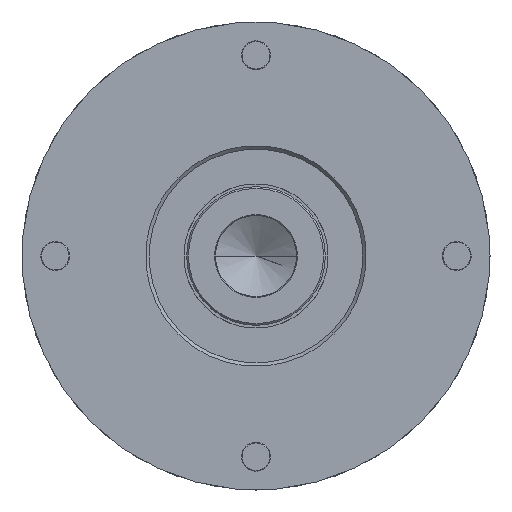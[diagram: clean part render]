
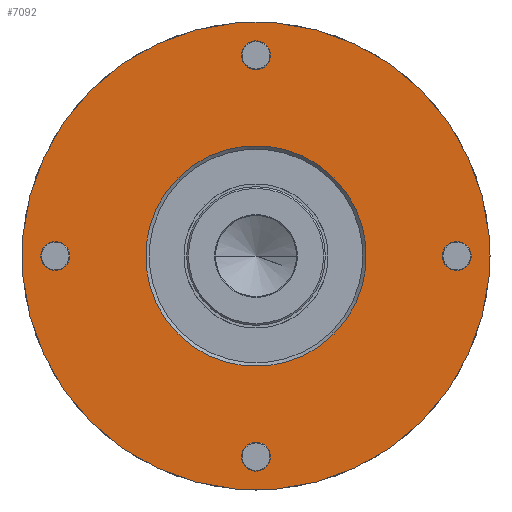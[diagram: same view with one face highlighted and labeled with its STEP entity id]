
A CAD part, left-side view. The second image highlights one B-rep face of the part: STEP entity #7092.
In plain terms, the highlighted planar face has unit normal (-1, 0, 0).
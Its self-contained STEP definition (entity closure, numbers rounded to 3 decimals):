
#6401=CARTESIAN_POINT('',(0.,0.,0.));
#6402=DIRECTION('',(-1.,0.,0.));
#6403=DIRECTION('',(0.,1.,0.));
#6404=AXIS2_PLACEMENT_3D('',#6401,#6402,#6403);
#6409=CARTESIAN_POINT('',(0.,0.,0.));
#6410=DIRECTION('',(1.,0.,0.));
#6411=DIRECTION('',(0.,1.,0.));
#6412=AXIS2_PLACEMENT_3D('',#6409,#6410,#6411);
#6417=CARTESIAN_POINT('',(0.,0.,0.));
#6418=DIRECTION('',(-1.,0.,0.));
#6419=DIRECTION('',(0.,-1.,0.));
#6420=AXIS2_PLACEMENT_3D('',#6417,#6418,#6419);
#6425=CARTESIAN_POINT('',(0.,0.,0.));
#6426=DIRECTION('',(-1.,0.,0.));
#6427=DIRECTION('',(0.,1.,0.));
#6428=AXIS2_PLACEMENT_3D('',#6425,#6426,#6427);
#6433=CARTESIAN_POINT('',(0.,24.572,-24.572));
#6434=DIRECTION('',(1.,0.,0.));
#6435=DIRECTION('',(0.,-1.,0.));
#6436=AXIS2_PLACEMENT_3D('',#6433,#6434,#6435);
#6441=CARTESIAN_POINT('',(0.,24.572,-24.572));
#6442=DIRECTION('',(1.,0.,0.));
#6443=DIRECTION('',(0.,1.,0.));
#6444=AXIS2_PLACEMENT_3D('',#6441,#6442,#6443);
#6449=CARTESIAN_POINT('',(0.,-24.572,-24.572));
#6450=DIRECTION('',(1.,0.,0.));
#6451=DIRECTION('',(0.,-1.,0.));
#6452=AXIS2_PLACEMENT_3D('',#6449,#6450,#6451);
#6457=CARTESIAN_POINT('',(0.,-24.572,-24.572));
#6458=DIRECTION('',(1.,0.,0.));
#6459=DIRECTION('',(0.,1.,0.));
#6460=AXIS2_PLACEMENT_3D('',#6457,#6458,#6459);
#6465=CARTESIAN_POINT('',(0.,-24.572,24.572));
#6466=DIRECTION('',(1.,0.,0.));
#6467=DIRECTION('',(0.,-1.,0.));
#6468=AXIS2_PLACEMENT_3D('',#6465,#6466,#6467);
#6473=CARTESIAN_POINT('',(0.,-24.572,24.572));
#6474=DIRECTION('',(1.,0.,0.));
#6475=DIRECTION('',(0.,1.,0.));
#6476=AXIS2_PLACEMENT_3D('',#6473,#6474,#6475);
#6481=CARTESIAN_POINT('',(0.,24.572,24.572));
#6482=DIRECTION('',(1.,0.,0.));
#6483=DIRECTION('',(0.,-1.,0.));
#6484=AXIS2_PLACEMENT_3D('',#6481,#6482,#6483);
#6489=CARTESIAN_POINT('',(0.,24.572,24.572));
#6490=DIRECTION('',(1.,0.,0.));
#6491=DIRECTION('',(0.,1.,0.));
#6492=AXIS2_PLACEMENT_3D('',#6489,#6490,#6491);
#6689=CARTESIAN_POINT('',(0.,40.5,0.));
#6690=CARTESIAN_POINT('',(0.,-40.5,0.));
#6691=VERTEX_POINT('',#6689);
#6692=VERTEX_POINT('',#6690);
#6733=CARTESIAN_POINT('',(0.,22.072,-24.572));
#6734=CARTESIAN_POINT('',(0.,27.072,-24.572));
#6735=VERTEX_POINT('',#6733);
#6736=VERTEX_POINT('',#6734);
#6737=CARTESIAN_POINT('',(0.,-27.072,-24.572));
#6738=CARTESIAN_POINT('',(0.,-22.072,-24.572));
#6739=VERTEX_POINT('',#6737);
#6740=VERTEX_POINT('',#6738);
#6741=CARTESIAN_POINT('',(0.,-27.072,24.572));
#6742=CARTESIAN_POINT('',(0.,-22.072,24.572));
#6743=VERTEX_POINT('',#6741);
#6744=VERTEX_POINT('',#6742);
#6745=CARTESIAN_POINT('',(0.,22.072,24.572));
#6746=CARTESIAN_POINT('',(0.,27.072,24.572));
#6747=VERTEX_POINT('',#6745);
#6748=VERTEX_POINT('',#6746);
#6757=CARTESIAN_POINT('',(0.,-19.1,0.));
#6758=CARTESIAN_POINT('',(0.,19.1,0.));
#6759=VERTEX_POINT('',#6757);
#6760=VERTEX_POINT('',#6758);
#7055=CARTESIAN_POINT('',(0.,0.,0.));
#7056=DIRECTION('',(1.,0.,0.));
#7057=DIRECTION('',(0.,-1.,0.));
#7058=AXIS2_PLACEMENT_3D('',#7055,#7056,#7057);
#7059=PLANE('',#7058);
#7060=ORIENTED_EDGE('',*,*,#7022,.F.);
#7061=ORIENTED_EDGE('',*,*,#7037,.T.);
#7062=EDGE_LOOP('',(#7060,#7061));
#7063=FACE_OUTER_BOUND('',#7062,.F.);
#7064=ORIENTED_EDGE('',*,*,#6793,.T.);
#7065=ORIENTED_EDGE('',*,*,#6808,.T.);
#7066=EDGE_LOOP('',(#7064,#7065));
#7067=FACE_BOUND('',#7066,.F.);
#7069=ORIENTED_EDGE('',*,*,#7068,.F.);
#7071=ORIENTED_EDGE('',*,*,#7070,.F.);
#7072=EDGE_LOOP('',(#7069,#7071));
#7073=FACE_BOUND('',#7072,.F.);
#7075=ORIENTED_EDGE('',*,*,#7074,.F.);
#7077=ORIENTED_EDGE('',*,*,#7076,.F.);
#7078=EDGE_LOOP('',(#7075,#7077));
#7079=FACE_BOUND('',#7078,.F.);
#7081=ORIENTED_EDGE('',*,*,#7080,.F.);
#7083=ORIENTED_EDGE('',*,*,#7082,.F.);
#7084=EDGE_LOOP('',(#7081,#7083));
#7085=FACE_BOUND('',#7084,.F.);
#7087=ORIENTED_EDGE('',*,*,#7086,.F.);
#7089=ORIENTED_EDGE('',*,*,#7088,.F.);
#7090=EDGE_LOOP('',(#7087,#7089));
#7091=FACE_BOUND('',#7090,.F.);
#6405=CIRCLE('',#6404,40.5);
#6413=CIRCLE('',#6412,40.5);
#6421=CIRCLE('',#6420,19.1);
#6429=CIRCLE('',#6428,19.1);
#6437=CIRCLE('',#6436,2.5);
#6445=CIRCLE('',#6444,2.5);
#6453=CIRCLE('',#6452,2.5);
#6461=CIRCLE('',#6460,2.5);
#6469=CIRCLE('',#6468,2.5);
#6477=CIRCLE('',#6476,2.5);
#6485=CIRCLE('',#6484,2.5);
#6493=CIRCLE('',#6492,2.5);
#6793=EDGE_CURVE('',#6759,#6760,#6421,.T.);
#6808=EDGE_CURVE('',#6760,#6759,#6429,.T.);
#7022=EDGE_CURVE('',#6691,#6692,#6405,.T.);
#7037=EDGE_CURVE('',#6691,#6692,#6413,.T.);
#7068=EDGE_CURVE('',#6735,#6736,#6437,.T.);
#7070=EDGE_CURVE('',#6736,#6735,#6445,.T.);
#7074=EDGE_CURVE('',#6739,#6740,#6453,.T.);
#7076=EDGE_CURVE('',#6740,#6739,#6461,.T.);
#7080=EDGE_CURVE('',#6743,#6744,#6469,.T.);
#7082=EDGE_CURVE('',#6744,#6743,#6477,.T.);
#7086=EDGE_CURVE('',#6747,#6748,#6485,.T.);
#7088=EDGE_CURVE('',#6748,#6747,#6493,.T.);
#7092=ADVANCED_FACE('',(#7063,#7067,#7073,#7079,#7085,#7091),#7059,.F.);
